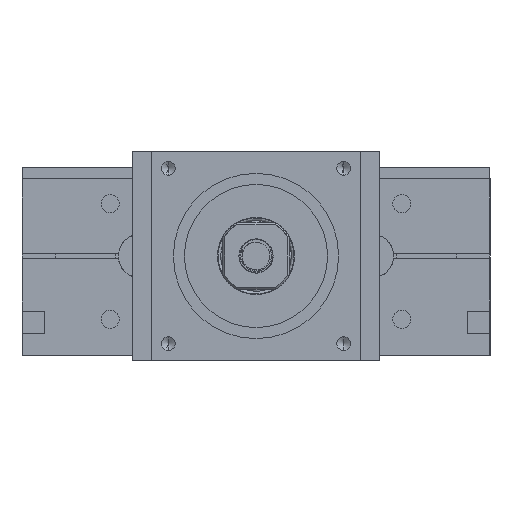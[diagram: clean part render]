
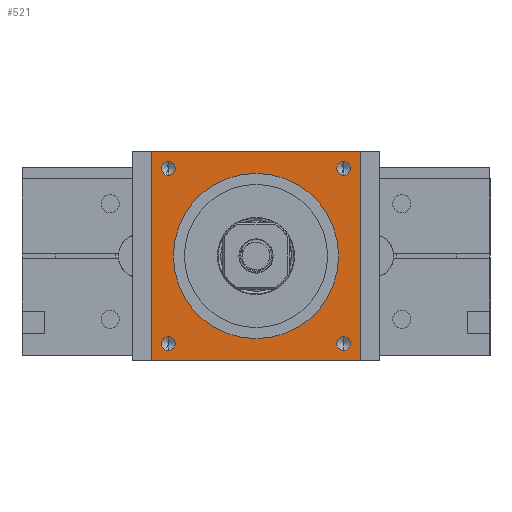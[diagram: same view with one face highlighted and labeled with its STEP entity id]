
A CAD part, left-side view. The second image highlights one B-rep face of the part: STEP entity #521.
In plain terms, the highlighted planar face has unit normal (-1, 0, 0) as drawn and (0, -1, 0) by its records, which use the part's own axes.
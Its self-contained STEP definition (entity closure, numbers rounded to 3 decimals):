
#103 = FACE_BOUND ( 'NONE', #40302, .T. ) ;
#521 = ADVANCED_FACE ( 'NONE', ( #4380, #41636, #9864, #47352, #103, #14796 ), #18433, .F. ) ;
#592 = EDGE_CURVE ( 'NONE', #14021, #58911, #32456, .T. ) ;
#612 = AXIS2_PLACEMENT_3D ( 'NONE', #46135, #13886, #55955 ) ;
#774 = CIRCLE ( 'NONE', #8613, 1.25 ) ;
#1011 = CARTESIAN_POINT ( 'NONE',  ( -22.5, 0., 19. ) ) ;
#1167 = VERTEX_POINT ( 'NONE', #20926 ) ;
#1269 = CARTESIAN_POINT ( 'NONE',  ( -19., 0., 19. ) ) ;
#1421 = CARTESIAN_POINT ( 'NONE',  ( -22.5, 0., -19. ) ) ;
#1711 = DIRECTION ( 'NONE',  ( 0., 0., -1. ) ) ;
#1859 = DIRECTION ( 'NONE',  ( 0., -1., 0. ) ) ;
#2841 = AXIS2_PLACEMENT_3D ( 'NONE', #44504, #11916, #17672 ) ;
#2990 = ORIENTED_EDGE ( 'NONE', *, *, #26014, .F. ) ;
#3118 = CARTESIAN_POINT ( 'NONE',  ( 0., 0., -15. ) ) ;
#3200 = CARTESIAN_POINT ( 'NONE',  ( -15.91, 0., -14.66 ) ) ;
#3353 = EDGE_LOOP ( 'NONE', ( #2990, #18460 ) ) ;
#3726 = VERTEX_POINT ( 'NONE', #43179 ) ;
#4380 = FACE_BOUND ( 'NONE', #21959, .T. ) ;
#5108 = VERTEX_POINT ( 'NONE', #19440 ) ;
#5686 = VERTEX_POINT ( 'NONE', #3200 ) ;
#6045 = CARTESIAN_POINT ( 'NONE',  ( -19., 0., -19. ) ) ;
#6175 = EDGE_CURVE ( 'NONE', #32568, #58911, #26652, .T. ) ;
#6516 = CIRCLE ( 'NONE', #612, 1.25 ) ;
#7293 = AXIS2_PLACEMENT_3D ( 'NONE', #18842, #31976, #23707 ) ;
#7953 = ORIENTED_EDGE ( 'NONE', *, *, #56639, .F. ) ;
#7976 = DIRECTION ( 'NONE',  ( 0., -1., 0. ) ) ;
#8050 = EDGE_CURVE ( 'NONE', #14021, #19509, #29462, .T. ) ;
#8226 = ORIENTED_EDGE ( 'NONE', *, *, #13259, .F. ) ;
#8613 = AXIS2_PLACEMENT_3D ( 'NONE', #33593, #43647, #33288 ) ;
#9036 = AXIS2_PLACEMENT_3D ( 'NONE', #19830, #15876, #24076 ) ;
#9267 = DIRECTION ( 'NONE',  ( 0., 1., 0. ) ) ;
#9674 = ORIENTED_EDGE ( 'NONE', *, *, #33400, .F. ) ;
#9864 = FACE_BOUND ( 'NONE', #17331, .T. ) ;
#11197 = CIRCLE ( 'NONE', #45216, 1.25 ) ;
#11328 = AXIS2_PLACEMENT_3D ( 'NONE', #29631, #1859, #39120 ) ;
#11752 = VERTEX_POINT ( 'NONE', #53749 ) ;
#11916 = DIRECTION ( 'NONE',  ( 0., -1., 0. ) ) ;
#11981 = CARTESIAN_POINT ( 'NONE',  ( 15.91, 0., -15.91 ) ) ;
#12596 = DIRECTION ( 'NONE',  ( 0., 0., -1. ) ) ;
#13259 = EDGE_CURVE ( 'NONE', #52324, #31143, #49104, .T. ) ;
#13886 = DIRECTION ( 'NONE',  ( 0., -1., 0. ) ) ;
#14021 = VERTEX_POINT ( 'NONE', #1269 ) ;
#14439 = ORIENTED_EDGE ( 'NONE', *, *, #592, .F. ) ;
#14550 = CARTESIAN_POINT ( 'NONE',  ( 19., 0., 19. ) ) ;
#14796 = FACE_OUTER_BOUND ( 'NONE', #51806, .T. ) ;
#14841 = EDGE_CURVE ( 'NONE', #34729, #3726, #33915, .T. ) ;
#15876 = DIRECTION ( 'NONE',  ( 0., -1., 0. ) ) ;
#15922 = EDGE_CURVE ( 'NONE', #32568, #19509, #34099, .T. ) ;
#16282 = VECTOR ( 'NONE', #1711, 1000. ) ;
#16868 = ORIENTED_EDGE ( 'NONE', *, *, #14841, .F. ) ;
#17331 = EDGE_LOOP ( 'NONE', ( #16868, #35929 ) ) ;
#17672 = DIRECTION ( 'NONE',  ( 0., 0., -1. ) ) ;
#18433 = PLANE ( 'NONE',  #53831 ) ;
#18460 = ORIENTED_EDGE ( 'NONE', *, *, #34752, .F. ) ;
#18842 = CARTESIAN_POINT ( 'NONE',  ( -15.91, 0., 15.91 ) ) ;
#19344 = DIRECTION ( 'NONE',  ( 0., 0., 1. ) ) ;
#19440 = CARTESIAN_POINT ( 'NONE',  ( -15.91, 0., -17.16 ) ) ;
#19509 = VERTEX_POINT ( 'NONE', #6045 ) ;
#19830 = CARTESIAN_POINT ( 'NONE',  ( 0., 0., 0. ) ) ;
#20007 = CARTESIAN_POINT ( 'NONE',  ( 0., 0., 0. ) ) ;
#20611 = DIRECTION ( 'NONE',  ( 0., -1., 0. ) ) ;
#20640 = AXIS2_PLACEMENT_3D ( 'NONE', #11981, #7976, #12596 ) ;
#20926 = CARTESIAN_POINT ( 'NONE',  ( 15.91, 0., -14.66 ) ) ;
#21336 = EDGE_CURVE ( 'NONE', #3726, #34729, #11197, .T. ) ;
#21910 = DIRECTION ( 'NONE',  ( 0., -1., 0. ) ) ;
#21959 = EDGE_LOOP ( 'NONE', ( #43598, #43419 ) ) ;
#23110 = ORIENTED_EDGE ( 'NONE', *, *, #6175, .T. ) ;
#23707 = DIRECTION ( 'NONE',  ( 0., 0., -1. ) ) ;
#24076 = DIRECTION ( 'NONE',  ( 0., 0., -1. ) ) ;
#25034 = CARTESIAN_POINT ( 'NONE',  ( 15.91, 0., 14.66 ) ) ;
#25841 = DIRECTION ( 'NONE',  ( -1., 0., 0. ) ) ;
#26014 = EDGE_CURVE ( 'NONE', #11752, #1167, #56697, .T. ) ;
#26652 = LINE ( 'NONE', #35198, #39812 ) ;
#26881 = CIRCLE ( 'NONE', #11328, 1.25 ) ;
#27221 = ORIENTED_EDGE ( 'NONE', *, *, #29925, .F. ) ;
#29462 = LINE ( 'NONE', #43527, #16282 ) ;
#29631 = CARTESIAN_POINT ( 'NONE',  ( -15.91, 0., -15.91 ) ) ;
#29925 = EDGE_CURVE ( 'NONE', #55095, #55528, #46035, .T. ) ;
#30557 = DIRECTION ( 'NONE',  ( 0., 0., -1. ) ) ;
#31143 = VERTEX_POINT ( 'NONE', #56421 ) ;
#31681 = CARTESIAN_POINT ( 'NONE',  ( 15.91, 0., 15.91 ) ) ;
#31976 = DIRECTION ( 'NONE',  ( 0., -1., 0. ) ) ;
#32456 = LINE ( 'NONE', #1011, #41146 ) ;
#32568 = VERTEX_POINT ( 'NONE', #42259 ) ;
#32700 = EDGE_CURVE ( 'NONE', #5108, #5686, #6516, .T. ) ;
#32768 = DIRECTION ( 'NONE',  ( 1., 0., 0. ) ) ;
#33288 = DIRECTION ( 'NONE',  ( 0., 0., -1. ) ) ;
#33400 = EDGE_CURVE ( 'NONE', #55528, #55095, #52383, .T. ) ;
#33457 = CARTESIAN_POINT ( 'NONE',  ( 0., 0., 15. ) ) ;
#33593 = CARTESIAN_POINT ( 'NONE',  ( 15.91, 0., -15.91 ) ) ;
#33915 = CIRCLE ( 'NONE', #37794, 1.25 ) ;
#34099 = LINE ( 'NONE', #1421, #41879 ) ;
#34729 = VERTEX_POINT ( 'NONE', #25034 ) ;
#34752 = EDGE_CURVE ( 'NONE', #1167, #11752, #774, .T. ) ;
#35198 = CARTESIAN_POINT ( 'NONE',  ( 19., 0., 19. ) ) ;
#35813 = DIRECTION ( 'NONE',  ( 0., 0., 1. ) ) ;
#35929 = ORIENTED_EDGE ( 'NONE', *, *, #21336, .F. ) ;
#36104 = ORIENTED_EDGE ( 'NONE', *, *, #8050, .T. ) ;
#36665 = EDGE_CURVE ( 'NONE', #5686, #5108, #26881, .T. ) ;
#36987 = CIRCLE ( 'NONE', #2841, 1.25 ) ;
#37794 = AXIS2_PLACEMENT_3D ( 'NONE', #31681, #21910, #45688 ) ;
#38251 = CARTESIAN_POINT ( 'NONE',  ( 0., 0., 0. ) ) ;
#39120 = DIRECTION ( 'NONE',  ( 0., 0., -1. ) ) ;
#39812 = VECTOR ( 'NONE', #35813, 1000. ) ;
#40302 = EDGE_LOOP ( 'NONE', ( #9674, #27221 ) ) ;
#40696 = ORIENTED_EDGE ( 'NONE', *, *, #15922, .F. ) ;
#41146 = VECTOR ( 'NONE', #32768, 1000. ) ;
#41636 = FACE_BOUND ( 'NONE', #3353, .T. ) ;
#41879 = VECTOR ( 'NONE', #25841, 1000. ) ;
#42259 = CARTESIAN_POINT ( 'NONE',  ( 19., 0., -19. ) ) ;
#43179 = CARTESIAN_POINT ( 'NONE',  ( 15.91, 0., 17.16 ) ) ;
#43419 = ORIENTED_EDGE ( 'NONE', *, *, #36665, .F. ) ;
#43527 = CARTESIAN_POINT ( 'NONE',  ( -19., 0., 19. ) ) ;
#43598 = ORIENTED_EDGE ( 'NONE', *, *, #32700, .F. ) ;
#43647 = DIRECTION ( 'NONE',  ( 0., -1., 0. ) ) ;
#43998 = CARTESIAN_POINT ( 'NONE',  ( 15.91, 0., 15.91 ) ) ;
#44504 = CARTESIAN_POINT ( 'NONE',  ( -15.91, 0., 15.91 ) ) ;
#45216 = AXIS2_PLACEMENT_3D ( 'NONE', #43998, #49734, #30557 ) ;
#45688 = DIRECTION ( 'NONE',  ( 0., 0., -1. ) ) ;
#46035 = CIRCLE ( 'NONE', #9036, 15. ) ;
#46135 = CARTESIAN_POINT ( 'NONE',  ( -15.91, 0., -15.91 ) ) ;
#46490 = AXIS2_PLACEMENT_3D ( 'NONE', #20007, #20611, #53558 ) ;
#47174 = EDGE_LOOP ( 'NONE', ( #7953, #8226 ) ) ;
#47352 = FACE_BOUND ( 'NONE', #47174, .T. ) ;
#49104 = CIRCLE ( 'NONE', #7293, 1.25 ) ;
#49734 = DIRECTION ( 'NONE',  ( 0., -1., 0. ) ) ;
#51806 = EDGE_LOOP ( 'NONE', ( #36104, #40696, #23110, #14439 ) ) ;
#52324 = VERTEX_POINT ( 'NONE', #55200 ) ;
#52383 = CIRCLE ( 'NONE', #46490, 15. ) ;
#53558 = DIRECTION ( 'NONE',  ( 0., 0., -1. ) ) ;
#53749 = CARTESIAN_POINT ( 'NONE',  ( 15.91, 0., -17.16 ) ) ;
#53831 = AXIS2_PLACEMENT_3D ( 'NONE', #38251, #9267, #19344 ) ;
#55095 = VERTEX_POINT ( 'NONE', #33457 ) ;
#55200 = CARTESIAN_POINT ( 'NONE',  ( -15.91, 0., 17.16 ) ) ;
#55528 = VERTEX_POINT ( 'NONE', #3118 ) ;
#55955 = DIRECTION ( 'NONE',  ( 0., 0., -1. ) ) ;
#56421 = CARTESIAN_POINT ( 'NONE',  ( -15.91, 0., 14.66 ) ) ;
#56639 = EDGE_CURVE ( 'NONE', #31143, #52324, #36987, .T. ) ;
#56697 = CIRCLE ( 'NONE', #20640, 1.25 ) ;
#58911 = VERTEX_POINT ( 'NONE', #14550 ) ;
